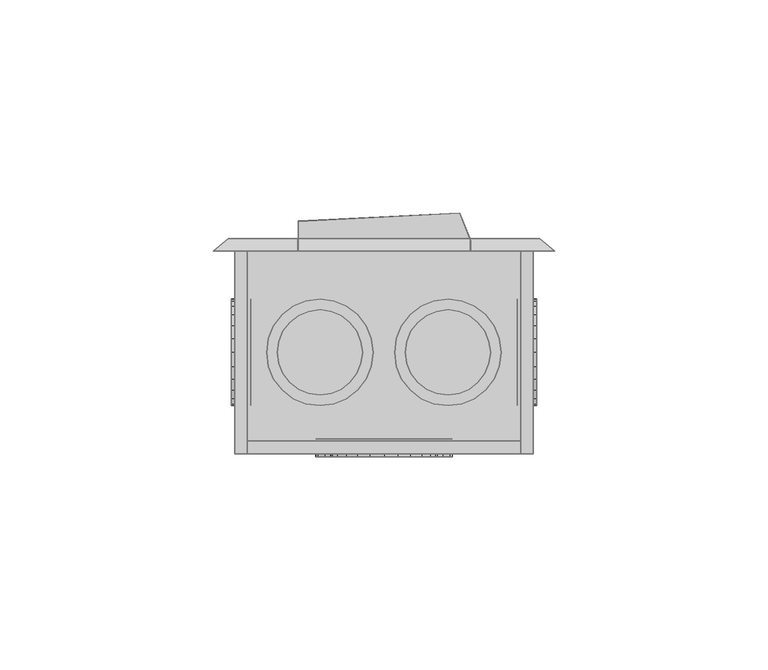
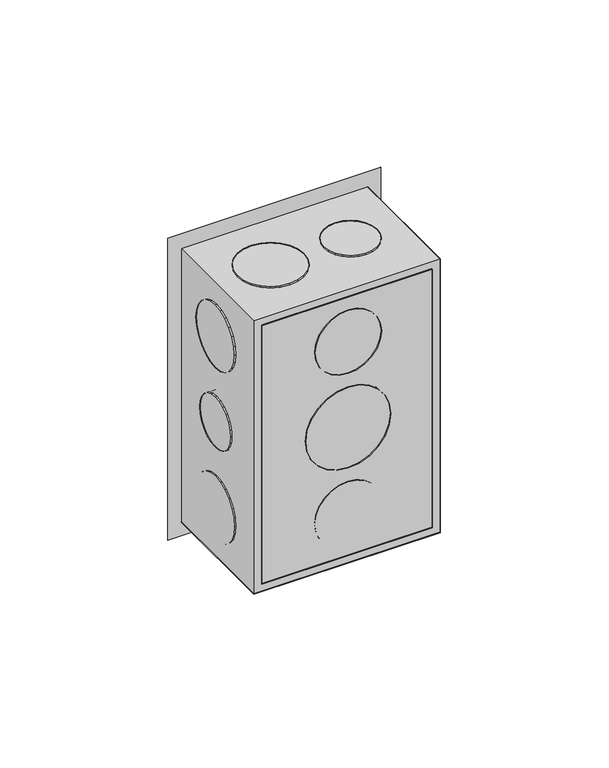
"""IFC4 building model written with IfcOpenShell, lengths in millimetres: proxy geometry,  211015 :  211015."""

from ifc_helpers import new_model, si_unit, origin, place, context, project, spatial, triangles, source, transform, mapped, element, save


def generic_models_8e6bc599(model_context):
    return source(origin(), model_context, "Body", "Tessellation", [
        triangles([(5316.1202774, 13245.499649, 1254.3000378), (5319.1200943, 13245.499649, 1148.7000154), (5316.1202774, 13245.499649, 1145.6999805), (5319.1200943, 13245.499649, 1251.2999302), (5386.1200745, 13245.499649, 1254.3000378), (5383.1202576, 13245.499649, 1251.2999302), (5386.1200745, 13245.499649, 1145.6999805), (5383.1202576, 13245.499649, 1148.7000154), (5319.1200943, 13198.0002228, 1251.2999302), (5319.1200943, 13198.0002228, 1148.7000154), (5386.1200745, 13198.0002228, 1254.3000378), (5386.1200745, 13198.0002228, 1145.6999805), (5383.1202576, 13198.0002228, 1251.2999302), (5316.1202774, 13198.0002228, 1145.6999805), (5383.1202576, 13198.0002228, 1148.7000154), (5316.1202774, 13198.0002228, 1254.3000378), (5319.1200943, 13201.0000397, 1251.2999302), (5383.1202576, 13201.0000397, 1148.7000154), (5319.1200943, 13201.0000397, 1148.7000154), (5383.1202576, 13201.0000397, 1251.2999302), (5337.2201523, 13201.5000092, 1191.9999887), (5343.1197922, 13201.5000092, 1186.0999855), (5339.8199936, 13201.5000092, 1188.6999722), (5335.6202499, 13201.5000092, 1195.8999687), (5346.9201416, 13201.5000092, 1184.5000105), (5335.1202805, 13201.5000092, 1200.0000092), (5351.1198853, 13201.5000092, 1183.9999683), (5335.6202499, 13201.5000092, 1204.0999769), (5355.2202164, 13201.5000092, 1184.5000105), (5337.2201523, 13201.5000092, 1208.0000296), (5359.1199783, 13201.5000092, 1186.0999855), (5339.8199936, 13201.5000092, 1211.2999735), (5362.4197769, 13201.5000092, 1188.6999722), (5343.1197922, 13201.5000092, 1213.9000328), (5364.9202057, 13201.5000092, 1191.9999887), (5346.9201416, 13201.5000092, 1215.5000078), (5366.520108, 13201.5000092, 1195.8999687), (5351.1198853, 13201.5000092, 1215.9999773), (5367.1200714, 13201.5000092, 1200.0000092), (5355.2202164, 13201.5000092, 1215.5000078), (5366.520108, 13201.5000092, 1204.0999769), (5359.1199783, 13201.5000092, 1213.9000328), (5364.9202057, 13201.5000092, 1208.0000296), (5362.4197769, 13201.5000092, 1211.2999735), (5355.2202164, 13197.3002655, 1184.5000105), (5351.1198853, 13197.3002655, 1183.9999683), (5346.9201416, 13197.3002655, 1184.5000105), (5343.1197922, 13197.3002655, 1186.0999855), (5339.8199936, 13197.3002655, 1188.6999722), (5337.2201523, 13197.3002655, 1191.9999887), (5335.6202499, 13197.3002655, 1195.8999687), (5335.1202805, 13197.3002655, 1200.0000092), (5335.6202499, 13197.3002655, 1204.0999769), (5337.2201523, 13197.3002655, 1208.0000296), (5339.8199936, 13197.3002655, 1211.2999735), (5343.1197922, 13197.3002655, 1213.9000328), (5346.9201416, 13197.3002655, 1215.5000078), (5351.1198853, 13197.3002655, 1215.9999773), (5355.2202164, 13197.3002655, 1215.5000078), (5359.1199783, 13197.3002655, 1213.9000328), (5362.4197769, 13197.3002655, 1211.2999735), (5364.9202057, 13197.3002655, 1208.0000296), (5366.520108, 13197.3002655, 1204.0999769), (5367.1200714, 13197.3002655, 1200.0000092), (5366.520108, 13197.3002655, 1195.8999687), (5364.9202057, 13197.3002655, 1191.9999887), (5362.4197769, 13197.3002655, 1188.6999722), (5359.1199783, 13197.3002655, 1186.0999855), (5340.2199692, 13201.5000092, 1227.8000565), (5344.8202698, 13201.5000092, 1223.2000465), (5342.2198471, 13201.5000092, 1225.2000698), (5339.0200424, 13201.5000092, 1230.8000187), (5347.8200867, 13201.5000092, 1221.8999805), (5338.6200668, 13201.5000092, 1233.9999687), (5351.1198853, 13201.5000092, 1221.500005), (5339.0200424, 13201.5000092, 1237.2000641), (5354.3202713, 13201.5000092, 1221.8999805), (5340.2199692, 13201.5000092, 1240.3000202), (5357.3200882, 13201.5000092, 1223.2000465), (5342.2198471, 13201.5000092, 1242.800013), (5359.9199295, 13201.5000092, 1225.2000698), (5361.9198074, 13201.5000092, 1227.8000565), (5344.8202698, 13201.5000092, 1244.8000362), (5347.8200867, 13201.5000092, 1246.0999569), (5363.1197342, 13201.5000092, 1230.8000187), (5351.1198853, 13201.5000092, 1246.4999325), (5363.620285, 13201.5000092, 1233.9999687), (5354.3202713, 13201.5000092, 1246.0999569), (5363.1197342, 13201.5000092, 1237.2000641), (5361.9198074, 13201.5000092, 1240.3000202), (5357.3200882, 13201.5000092, 1244.8000362), (5359.9199295, 13201.5000092, 1242.800013), (5363.1197342, 13197.3002655, 1230.8000187), (5361.9198074, 13197.3002655, 1227.8000565), (5359.9199295, 13197.3002655, 1225.2000698), (5357.3200882, 13197.3002655, 1223.2000465), (5354.3202713, 13197.3002655, 1221.8999805), (5351.1198853, 13197.3002655, 1221.500005), (5347.8200867, 13197.3002655, 1221.8999805), (5344.8202698, 13197.3002655, 1223.2000465), (5342.2198471, 13197.3002655, 1225.2000698), (5340.2199692, 13197.3002655, 1227.8000565), (5339.0200424, 13197.3002655, 1230.8000187), (5338.6200668, 13197.3002655, 1233.9999687), (5339.0200424, 13197.3002655, 1237.2000641), (5340.2199692, 13197.3002655, 1240.3000202), (5342.2198471, 13197.3002655, 1242.800013), (5344.8202698, 13197.3002655, 1244.8000362), (5347.8200867, 13197.3002655, 1246.0999569), (5351.1198853, 13197.3002655, 1246.4999325), (5354.3202713, 13197.3002655, 1246.0999569), (5357.3200882, 13197.3002655, 1244.8000362), (5359.9199295, 13197.3002655, 1242.800013), (5361.9198074, 13197.3002655, 1240.3000202), (5363.1197342, 13197.3002655, 1237.2000641), (5363.620285, 13197.3002655, 1233.9999687), (5344.8202698, 13197.3002655, 1155.1999821), (5340.2199692, 13197.3002655, 1159.6999981), (5342.2198471, 13197.3002655, 1157.2000053), (5347.8200867, 13197.3002655, 1153.8999887), (5339.0200424, 13197.3002655, 1162.8000269), (5351.1198853, 13197.3002655, 1153.5000132), (5338.6200668, 13197.3002655, 1165.9999769), (5354.3202713, 13197.3002655, 1153.8999887), (5339.0200424, 13197.3002655, 1169.1999996), (5357.3200882, 13197.3002655, 1155.1999821), (5340.2199692, 13197.3002655, 1172.2000345), (5359.9199295, 13197.3002655, 1157.2000053), (5342.2198471, 13197.3002655, 1174.8000212), (5361.9198074, 13197.3002655, 1159.6999981), (5344.8202698, 13197.3002655, 1176.7999718), (5363.1197342, 13197.3002655, 1162.8000269), (5347.8200867, 13197.3002655, 1178.0999651), (5351.1198853, 13197.3002655, 1178.5000134), (5363.620285, 13197.3002655, 1165.9999769), (5363.1197342, 13197.3002655, 1169.1999996), (5354.3202713, 13197.3002655, 1178.0999651), (5361.9198074, 13197.3002655, 1172.2000345), (5357.3200882, 13197.3002655, 1176.7999718), (5359.9199295, 13197.3002655, 1174.8000212), (5347.8200867, 13201.5000092, 1178.0999651), (5351.1198853, 13201.5000092, 1178.5000134), (5344.8202698, 13201.5000092, 1176.7999718), (5342.2198471, 13201.5000092, 1174.8000212), (5340.2199692, 13201.5000092, 1172.2000345), (5339.0200424, 13201.5000092, 1169.1999996), (5338.6200668, 13201.5000092, 1165.9999769), (5339.0200424, 13201.5000092, 1162.8000269), (5340.2199692, 13201.5000092, 1159.6999981), (5342.2198471, 13201.5000092, 1157.2000053), (5344.8202698, 13201.5000092, 1155.1999821), (5347.8200867, 13201.5000092, 1153.8999887), (5351.1198853, 13201.5000092, 1153.5000132), (5354.3202713, 13201.5000092, 1153.8999887), (5357.3200882, 13201.5000092, 1155.1999821), (5359.9199295, 13201.5000092, 1157.2000053), (5361.9198074, 13201.5000092, 1159.6999981), (5363.1197342, 13201.5000092, 1162.8000269), (5363.620285, 13201.5000092, 1165.9999769), (5363.1197342, 13201.5000092, 1169.1999996), (5361.9198074, 13201.5000092, 1172.2000345), (5359.9199295, 13201.5000092, 1174.8000212), (5357.3200882, 13201.5000092, 1176.7999718), (5354.3202713, 13201.5000092, 1178.0999651), (5319.9200455, 13216.800238, 1191.3000315), (5319.9200455, 13213.1004639, 1195.0000237), (5319.9200455, 13214.7003662, 1192.9000065), (5319.9200455, 13212.1005249, 1197.4000225), (5319.9200455, 13219.2000916, 1190.3000198), (5319.9200455, 13211.8005432, 1200.0000092), (5319.9200455, 13221.7999329, 1189.9999655), (5319.9200455, 13224.2997803, 1190.3000198), (5319.9200455, 13212.1005249, 1202.5999958), (5319.9200455, 13213.1004639, 1204.9999947), (5319.9200455, 13226.7996277, 1191.3000315), (5319.9200455, 13214.7003662, 1207.1000118), (5319.9200455, 13228.7995056, 1192.9000065), (5319.9200455, 13230.4005707, 1195.0000237), (5319.9200455, 13216.800238, 1208.6999868), (5319.9200455, 13231.4005096, 1197.4000225), (5319.9200455, 13219.2000916, 1209.6999985), (5319.9200455, 13231.8004852, 1200.0000092), (5319.9200455, 13221.7999329, 1209.9999802), (5319.9200455, 13231.4005096, 1202.5999958), (5319.9200455, 13224.2997803, 1209.6999985), (5319.9200455, 13226.7996277, 1208.6999868), (5319.9200455, 13230.4005707, 1204.9999947), (5319.9200455, 13228.7995056, 1207.1000118), (5315.3197449, 13221.7999329, 1189.9999655), (5315.3197449, 13219.2000916, 1190.3000198), (5315.3197449, 13224.2997803, 1190.3000198), (5315.3197449, 13226.7996277, 1191.3000315), (5315.3197449, 13228.7995056, 1192.9000065), (5315.3197449, 13230.4005707, 1195.0000237), (5315.3197449, 13231.4005096, 1197.4000225), (5315.3197449, 13231.8004852, 1200.0000092), (5315.3197449, 13231.4005096, 1202.5999958), (5315.3197449, 13230.4005707, 1204.9999947), (5315.3197449, 13228.7995056, 1207.1000118), (5315.3197449, 13226.7996277, 1208.6999868), (5315.3197449, 13224.2997803, 1209.6999985), (5315.3197449, 13221.7999329, 1209.9999802), (5315.3197449, 13219.2000916, 1209.6999985), (5315.3197449, 13216.800238, 1208.6999868), (5315.3197449, 13214.7003662, 1207.1000118), (5315.3197449, 13213.1004639, 1204.9999947), (5315.3197449, 13212.1005249, 1202.5999958), (5315.3197449, 13211.8005432, 1200.0000092), (5315.3197449, 13212.1005249, 1197.4000225), (5315.3197449, 13213.1004639, 1195.0000237), (5315.3197449, 13214.7003662, 1192.9000065), (5315.3197449, 13216.800238, 1191.3000315), (5319.9200455, 13215.5003174, 1223.2000465), (5319.9200455, 13210.8994354, 1227.8000565), (5319.9200455, 13212.9004761, 1225.2000698), (5319.9200455, 13218.5001343, 1221.8999805), (5319.9200455, 13209.6995087, 1230.8000187), (5319.9200455, 13209.2995331, 1233.9999687), (5319.9200455, 13221.7999329, 1221.500005), (5319.9200455, 13224.9997375, 1221.8999805), (5319.9200455, 13209.6995087, 1237.2000641), (5319.9200455, 13210.8994354, 1240.3000202), (5319.9200455, 13227.9995544, 1223.2000465), (5319.9200455, 13230.6005585, 1225.2000698), (5319.9200455, 13212.9004761, 1242.800013), (5319.9200455, 13232.6004364, 1227.8000565), (5319.9200455, 13215.5003174, 1244.8000362), (5319.9200455, 13233.8003632, 1230.8000187), (5319.9200455, 13218.5001343, 1246.0999569), (5319.9200455, 13234.3003326, 1233.9999687), (5319.9200455, 13221.7999329, 1246.4999325), (5319.9200455, 13233.8003632, 1237.2000641), (5319.9200455, 13224.9997375, 1246.0999569), (5319.9200455, 13232.6004364, 1240.3000202), (5319.9200455, 13227.9995544, 1244.8000362), (5319.9200455, 13230.6005585, 1242.800013), (5315.3197449, 13221.7999329, 1221.500005), (5315.3197449, 13218.5001343, 1221.8999805), (5315.3197449, 13224.9997375, 1221.8999805), (5315.3197449, 13227.9995544, 1223.2000465), (5315.3197449, 13230.6005585, 1225.2000698), (5315.3197449, 13232.6004364, 1227.8000565), (5315.3197449, 13233.8003632, 1230.8000187), (5315.3197449, 13234.3003326, 1233.9999687), (5315.3197449, 13233.8003632, 1237.2000641), (5315.3197449, 13232.6004364, 1240.3000202), (5315.3197449, 13230.6005585, 1242.800013), (5315.3197449, 13227.9995544, 1244.8000362), (5315.3197449, 13224.9997375, 1246.0999569), (5315.3197449, 13221.7999329, 1246.4999325), (5315.3197449, 13218.5001343, 1246.0999569), (5315.3197449, 13215.5003174, 1244.8000362), (5315.3197449, 13212.9004761, 1242.800013), (5315.3197449, 13210.8994354, 1240.3000202), (5315.3197449, 13209.6995087, 1237.2000641), (5315.3197449, 13209.2995331, 1233.9999687), (5315.3197449, 13209.6995087, 1230.8000187), (5315.3197449, 13210.8994354, 1227.8000565), (5315.3197449, 13212.9004761, 1225.2000698), (5315.3197449, 13215.5003174, 1223.2000465), (5315.3197449, 13210.8994354, 1159.6999981), (5315.3197449, 13215.5003174, 1155.1999821), (5315.3197449, 13212.9004761, 1157.2000053), (5315.3197449, 13209.6995087, 1162.8000269), (5315.3197449, 13218.5001343, 1153.8999887), (5315.3197449, 13209.2995331, 1165.9999769), (5315.3197449, 13221.7999329, 1153.5000132), (5315.3197449, 13209.6995087, 1169.1999996), (5315.3197449, 13224.9997375, 1153.8999887), (5315.3197449, 13210.8994354, 1172.2000345), (5315.3197449, 13227.9995544, 1155.1999821), (5315.3197449, 13212.9004761, 1174.8000212), (5315.3197449, 13230.6005585, 1157.2000053), (5315.3197449, 13215.5003174, 1176.7999718), (5315.3197449, 13232.6004364, 1159.6999981), (5315.3197449, 13218.5001343, 1178.0999651), (5315.3197449, 13233.8003632, 1162.8000269), (5315.3197449, 13221.7999329, 1178.5000134), (5315.3197449, 13234.3003326, 1165.9999769), (5315.3197449, 13224.9997375, 1178.0999651), (5315.3197449, 13233.8003632, 1169.1999996), (5315.3197449, 13227.9995544, 1176.7999718), (5315.3197449, 13232.6004364, 1172.2000345), (5315.3197449, 13230.6005585, 1174.8000212), (5319.9200455, 13218.5001343, 1178.0999651), (5319.9200455, 13221.7999329, 1178.5000134), (5319.9200455, 13224.9997375, 1178.0999651), (5319.9200455, 13227.9995544, 1176.7999718), (5319.9200455, 13230.6005585, 1174.8000212), (5319.9200455, 13232.6004364, 1172.2000345), (5319.9200455, 13233.8003632, 1169.1999996), (5319.9200455, 13234.3003326, 1165.9999769), (5319.9200455, 13233.8003632, 1162.8000269), (5319.9200455, 13232.6004364, 1159.6999981), (5319.9200455, 13230.6005585, 1157.2000053), (5319.9200455, 13227.9995544, 1155.1999821), (5319.9200455, 13224.9997375, 1153.8999887), (5319.9200455, 13221.7999329, 1153.5000132), (5319.9200455, 13218.5001343, 1153.8999887), (5319.9200455, 13215.5003174, 1155.1999821), (5319.9200455, 13212.9004761, 1157.2000053), (5319.9200455, 13210.8994354, 1159.6999981), (5319.9200455, 13209.6995087, 1162.8000269), (5319.9200455, 13209.2995331, 1165.9999769), (5319.9200455, 13209.6995087, 1169.1999996), (5319.9200455, 13210.8994354, 1172.2000345), (5319.9200455, 13212.9004761, 1174.8000212), (5319.9200455, 13215.5003174, 1176.7999718), (5382.319725, 13213.1004639, 1195.0000237), (5382.319725, 13216.800238, 1191.3000315), (5382.319725, 13214.7003662, 1192.9000065), (5382.319725, 13212.1005249, 1197.4000225), (5382.319725, 13219.2000916, 1190.3000198), (5382.319725, 13211.8005432, 1200.0000092), (5382.319725, 13221.7999329, 1189.9999655), (5382.319725, 13212.1005249, 1202.5999958), (5382.319725, 13224.2997803, 1190.3000198), (5382.319725, 13213.1004639, 1204.9999947), (5382.319725, 13226.7996277, 1191.3000315), (5382.319725, 13214.7003662, 1207.1000118), (5382.319725, 13228.7995056, 1192.9000065), (5382.319725, 13216.800238, 1208.6999868), (5382.319725, 13230.4005707, 1195.0000237), (5382.319725, 13219.2000916, 1209.6999985), (5382.319725, 13231.4005096, 1197.4000225), (5382.319725, 13231.8004852, 1200.0000092), (5382.319725, 13221.7999329, 1209.9999802), (5382.319725, 13224.2997803, 1209.6999985), (5382.319725, 13231.4005096, 1202.5999958), (5382.319725, 13226.7996277, 1208.6999868), (5382.319725, 13230.4005707, 1204.9999947), (5382.319725, 13228.7995056, 1207.1000118), (5386.9200256, 13219.2000916, 1209.6999985), (5386.9200256, 13221.7999329, 1209.9999802), (5386.9200256, 13224.2997803, 1209.6999985), (5386.9200256, 13226.7996277, 1208.6999868), (5386.9200256, 13228.7995056, 1207.1000118), (5386.9200256, 13230.4005707, 1204.9999947), (5386.9200256, 13231.4005096, 1202.5999958), (5386.9200256, 13231.8004852, 1200.0000092), (5386.9200256, 13231.4005096, 1197.4000225), (5386.9200256, 13230.4005707, 1195.0000237), (5386.9200256, 13228.7995056, 1192.9000065), (5386.9200256, 13226.7996277, 1191.3000315), (5386.9200256, 13224.2997803, 1190.3000198), (5386.9200256, 13221.7999329, 1189.9999655), (5386.9200256, 13219.2000916, 1190.3000198), (5386.9200256, 13216.800238, 1191.3000315), (5386.9200256, 13214.7003662, 1192.9000065), (5386.9200256, 13213.1004639, 1195.0000237), (5386.9200256, 13212.1005249, 1197.4000225), (5386.9200256, 13211.8005432, 1200.0000092), (5386.9200256, 13212.1005249, 1202.5999958), (5386.9200256, 13213.1004639, 1204.9999947), (5386.9200256, 13214.7003662, 1207.1000118), (5386.9200256, 13216.800238, 1208.6999868), (5382.319725, 13210.8994354, 1159.6999981), (5382.319725, 13215.5003174, 1155.1999821), (5382.319725, 13212.9004761, 1157.2000053), (5382.319725, 13209.6995087, 1162.8000269), (5382.319725, 13218.5001343, 1153.8999887), (5382.319725, 13209.2995331, 1165.9999769), (5382.319725, 13221.7999329, 1153.5000132), (5382.319725, 13209.6995087, 1169.1999996), (5382.319725, 13224.9997375, 1153.8999887), (5382.319725, 13210.8994354, 1172.2000345), (5382.319725, 13227.9995544, 1155.1999821), (5382.319725, 13212.9004761, 1174.8000212), (5382.319725, 13230.6005585, 1157.2000053), (5382.319725, 13215.5003174, 1176.7999718), (5382.319725, 13232.6004364, 1159.6999981), (5382.319725, 13218.5001343, 1178.0999651), (5382.319725, 13233.8003632, 1162.8000269), (5382.319725, 13221.7999329, 1178.5000134), (5382.319725, 13234.3003326, 1165.9999769), (5382.319725, 13224.9997375, 1178.0999651), (5382.319725, 13233.8003632, 1169.1999996), (5382.319725, 13227.9995544, 1176.7999718), (5382.319725, 13232.6004364, 1172.2000345), (5382.319725, 13230.6005585, 1174.8000212), (5386.9200256, 13218.5001343, 1178.0999651), (5386.9200256, 13221.7999329, 1178.5000134), (5386.9200256, 13224.9997375, 1178.0999651), (5386.9200256, 13227.9995544, 1176.7999718), (5386.9200256, 13230.6005585, 1174.8000212), (5386.9200256, 13232.6004364, 1172.2000345), (5386.9200256, 13233.8003632, 1169.1999996), (5386.9200256, 13234.3003326, 1165.9999769), (5386.9200256, 13233.8003632, 1162.8000269), (5386.9200256, 13232.6004364, 1159.6999981), (5386.9200256, 13230.6005585, 1157.2000053), (5386.9200256, 13227.9995544, 1155.1999821), (5386.9200256, 13224.9997375, 1153.8999887), (5386.9200256, 13221.7999329, 1153.5000132), (5386.9200256, 13218.5001343, 1153.8999887), (5386.9200256, 13215.5003174, 1155.1999821), (5386.9200256, 13212.9004761, 1157.2000053), (5386.9200256, 13210.8994354, 1159.6999981), (5386.9200256, 13209.6995087, 1162.8000269), (5386.9200256, 13209.2995331, 1165.9999769), (5386.9200256, 13209.6995087, 1169.1999996), (5386.9200256, 13210.8994354, 1172.2000345), (5386.9200256, 13212.9004761, 1174.8000212), (5386.9200256, 13215.5003174, 1176.7999718), (5386.9200256, 13215.5003174, 1223.2000465), (5386.9200256, 13210.8994354, 1227.8000565), (5386.9200256, 13212.9004761, 1225.2000698), (5386.9200256, 13218.5001343, 1221.8999805), (5386.9200256, 13209.6995087, 1230.8000187), (5386.9200256, 13209.2995331, 1233.9999687), (5386.9200256, 13221.7999329, 1221.500005), (5386.9200256, 13224.9997375, 1221.8999805), (5386.9200256, 13209.6995087, 1237.2000641), (5386.9200256, 13210.8994354, 1240.3000202), (5386.9200256, 13227.9995544, 1223.2000465), (5386.9200256, 13230.6005585, 1225.2000698), (5386.9200256, 13212.9004761, 1242.800013), (5386.9200256, 13232.6004364, 1227.8000565), (5386.9200256, 13215.5003174, 1244.8000362), (5386.9200256, 13233.8003632, 1230.8000187), (5386.9200256, 13218.5001343, 1246.0999569), (5386.9200256, 13234.3003326, 1233.9999687), (5386.9200256, 13221.7999329, 1246.4999325), (5386.9200256, 13233.8003632, 1237.2000641), (5386.9200256, 13224.9997375, 1246.0999569), (5386.9200256, 13232.6004364, 1240.3000202), (5386.9200256, 13227.9995544, 1244.8000362), (5386.9200256, 13230.6005585, 1242.800013), (5382.319725, 13221.7999329, 1221.500005), (5382.319725, 13218.5001343, 1221.8999805), (5382.319725, 13224.9997375, 1221.8999805), (5382.319725, 13227.9995544, 1223.2000465), (5382.319725, 13230.6005585, 1225.2000698), (5382.319725, 13232.6004364, 1227.8000565), (5382.319725, 13233.8003632, 1230.8000187), (5382.319725, 13234.3003326, 1233.9999687), (5382.319725, 13233.8003632, 1237.2000641), (5382.319725, 13232.6004364, 1240.3000202), (5382.319725, 13230.6005585, 1242.800013), (5382.319725, 13227.9995544, 1244.8000362), (5382.319725, 13224.9997375, 1246.0999569), (5382.319725, 13221.7999329, 1246.4999325), (5382.319725, 13218.5001343, 1246.0999569), (5382.319725, 13215.5003174, 1244.8000362), (5382.319725, 13212.9004761, 1242.800013), (5382.319725, 13210.8994354, 1240.3000202), (5382.319725, 13209.6995087, 1237.2000641), (5382.319725, 13209.2995331, 1233.9999687), (5382.319725, 13209.6995087, 1230.8000187), (5382.319725, 13210.8994354, 1227.8000565), (5382.319725, 13212.9004761, 1225.2000698), (5382.319725, 13215.5003174, 1223.2000465), (5325.219722, 13215.5003174, 1250.9999485), (5329.8200226, 13210.8994354, 1250.9999485), (5327.2201813, 13212.9004761, 1250.9999485), (5324.0197952, 13218.5001343, 1250.9999485), (5332.8198395, 13209.6995087, 1250.9999485), (5336.1202194, 13209.2995331, 1250.9999485), (5323.6198196, 13221.7999329, 1250.9999485), (5324.0197952, 13224.9997375, 1250.9999485), (5339.3200241, 13209.6995087, 1250.9999485), (5342.319841, 13210.8994354, 1250.9999485), (5325.219722, 13227.9995544, 1250.9999485), (5327.2201813, 13230.6005585, 1250.9999485), (5344.9202637, 13212.9004761, 1250.9999485), (5346.9201416, 13215.5003174, 1250.9999485), (5329.8200226, 13232.6004364, 1250.9999485), (5332.8198395, 13233.8003632, 1250.9999485), (5348.1200684, 13218.5001343, 1250.9999485), (5336.1202194, 13234.3003326, 1250.9999485), (5348.6200378, 13221.7999329, 1250.9999485), (5339.3200241, 13233.8003632, 1250.9999485), (5348.1200684, 13224.9997375, 1250.9999485), (5346.9201416, 13227.9995544, 1250.9999485), (5342.319841, 13232.6004364, 1250.9999485), (5344.9202637, 13230.6005585, 1250.9999485), (5336.1202194, 13209.2995331, 1255.1999828), (5339.3200241, 13209.6995087, 1255.1999828), (5332.8198395, 13209.6995087, 1255.1999828), (5329.8200226, 13210.8994354, 1255.1999828), (5327.2201813, 13212.9004761, 1255.1999828), (5325.219722, 13215.5003174, 1255.1999828), (5324.0197952, 13218.5001343, 1255.1999828), (5323.6198196, 13221.7999329, 1255.1999828), (5324.0197952, 13224.9997375, 1255.1999828), (5325.219722, 13227.9995544, 1255.1999828), (5327.2201813, 13230.6005585, 1255.1999828), (5329.8200226, 13232.6004364, 1255.1999828), (5332.8198395, 13233.8003632, 1255.1999828), (5336.1202194, 13234.3003326, 1255.1999828), (5339.3200241, 13233.8003632, 1255.1999828), (5342.319841, 13232.6004364, 1255.1999828), (5344.9202637, 13230.6005585, 1255.1999828), (5346.9201416, 13227.9995544, 1255.1999828), (5348.1200684, 13224.9997375, 1255.1999828), (5348.6200378, 13221.7999329, 1255.1999828), (5348.1200684, 13218.5001343, 1255.1999828), (5346.9201416, 13215.5003174, 1255.1999828), (5344.9202637, 13212.9004761, 1255.1999828), (5342.319841, 13210.8994354, 1255.1999828), (5357.4200821, 13216.800238, 1250.9999485), (5361.1198563, 13213.1004639, 1250.9999485), (5359.0199844, 13214.7003662, 1250.9999485), (5363.5197098, 13212.1005249, 1250.9999485), (5356.4201431, 13219.2000916, 1250.9999485), (5366.1201324, 13211.8005432, 1250.9999485), (5356.1201614, 13221.7999329, 1250.9999485), (5356.4201431, 13224.2997803, 1250.9999485), (5368.7199738, 13212.1005249, 1250.9999485), (5371.1198273, 13213.1004639, 1250.9999485), (5357.4200821, 13226.7996277, 1250.9999485), (5373.1202866, 13214.7003662, 1250.9999485), (5359.0199844, 13228.7995056, 1250.9999485), (5361.1198563, 13230.4005707, 1250.9999485), (5374.7201889, 13216.800238, 1250.9999485), (5375.7201279, 13219.2000916, 1250.9999485), (5363.5197098, 13231.4005096, 1250.9999485), (5366.1201324, 13231.8004852, 1250.9999485), (5376.1201035, 13221.7999329, 1250.9999485), (5368.7199738, 13231.4005096, 1250.9999485), (5375.7201279, 13224.2997803, 1250.9999485), (5371.1198273, 13230.4005707, 1250.9999485), (5374.7201889, 13226.7996277, 1250.9999485), (5373.1202866, 13228.7995056, 1250.9999485), (5368.7199738, 13212.1005249, 1255.1999828), (5371.1198273, 13213.1004639, 1255.1999828), (5366.1201324, 13211.8005432, 1255.1999828), (5363.5197098, 13212.1005249, 1255.1999828), (5361.1198563, 13213.1004639, 1255.1999828), (5359.0199844, 13214.7003662, 1255.1999828), (5357.4200821, 13216.800238, 1255.1999828), (5356.4201431, 13219.2000916, 1255.1999828), (5356.1201614, 13221.7999329, 1255.1999828), (5356.4201431, 13224.2997803, 1255.1999828), (5357.4200821, 13226.7996277, 1255.1999828), (5359.0199844, 13228.7995056, 1255.1999828), (5361.1198563, 13230.4005707, 1255.1999828), (5363.5197098, 13231.4005096, 1255.1999828), (5366.1201324, 13231.8004852, 1255.1999828), (5368.7199738, 13231.4005096, 1255.1999828), (5371.1198273, 13230.4005707, 1255.1999828), (5373.1202866, 13228.7995056, 1255.1999828), (5374.7201889, 13226.7996277, 1255.1999828), (5375.7201279, 13224.2997803, 1255.1999828), (5376.1201035, 13221.7999329, 1255.1999828), (5375.7201279, 13219.2000916, 1255.1999828), (5374.7201889, 13216.800238, 1255.1999828), (5373.1202866, 13214.7003662, 1255.1999828), (5327.4201691, 13216.800238, 1144.8000355), (5331.1199432, 13213.1004639, 1144.8000355), (5329.0200714, 13214.7003662, 1144.8000355), (5333.5197968, 13212.1005249, 1144.8000355), (5326.4202301, 13219.2000916, 1144.8000355), (5336.1202194, 13211.8005432, 1144.8000355), (5326.1202484, 13221.7999329, 1144.8000355), (5326.4202301, 13224.2997803, 1144.8000355), (5338.7200607, 13212.1005249, 1144.8000355), (5341.1199142, 13213.1004639, 1144.8000355), (5327.4201691, 13226.7996277, 1144.8000355), (5343.1197922, 13214.7003662, 1144.8000355), (5329.0200714, 13228.7995056, 1144.8000355), (5331.1199432, 13230.4005707, 1144.8000355), (5344.7202759, 13216.800238, 1144.8000355), (5345.7202148, 13219.2000916, 1144.8000355), (5333.5197968, 13231.4005096, 1144.8000355), (5336.1202194, 13231.8004852, 1144.8000355), (5346.1201904, 13221.7999329, 1144.8000355), (5338.7200607, 13231.4005096, 1144.8000355), (5345.7202148, 13224.2997803, 1144.8000355), (5341.1199142, 13230.4005707, 1144.8000355), (5344.7202759, 13226.7996277, 1144.8000355), (5343.1197922, 13228.7995056, 1144.8000355), (5333.5197968, 13212.1005249, 1149.099991), (5336.1202194, 13211.8005432, 1149.099991), (5331.1199432, 13213.1004639, 1149.099991), (5329.0200714, 13214.7003662, 1149.099991), (5327.4201691, 13216.800238, 1149.099991), (5326.4202301, 13219.2000916, 1149.099991), (5326.1202484, 13221.7999329, 1149.099991), (5326.4202301, 13224.2997803, 1149.099991), (5327.4201691, 13226.7996277, 1149.099991), (5329.0200714, 13228.7995056, 1149.099991), (5331.1199432, 13230.4005707, 1149.099991), (5333.5197968, 13231.4005096, 1149.099991), (5336.1202194, 13231.8004852, 1149.099991), (5338.7200607, 13231.4005096, 1149.099991), (5341.1199142, 13230.4005707, 1149.099991), (5343.1197922, 13228.7995056, 1149.099991), (5344.7202759, 13226.7996277, 1149.099991), (5345.7202148, 13224.2997803, 1149.099991), (5346.1201904, 13221.7999329, 1149.099991), (5345.7202148, 13219.2000916, 1149.099991), (5344.7202759, 13216.800238, 1149.099991), (5343.1197922, 13214.7003662, 1149.099991), (5341.1199142, 13213.1004639, 1149.099991), (5338.7200607, 13212.1005249, 1149.099991), (5355.2202164, 13215.5003174, 1144.8000355), (5359.8199356, 13210.8994354, 1144.8000355), (5357.2200943, 13212.9004761, 1144.8000355), (5354.0202896, 13218.5001343, 1144.8000355), (5362.8197525, 13209.6995087, 1144.8000355), (5366.1201324, 13209.2995331, 1144.8000355), (5353.6197327, 13221.7999329, 1144.8000355), (5354.0202896, 13224.9997375, 1144.8000355), (5369.3199371, 13209.6995087, 1144.8000355), (5372.319754, 13210.8994354, 1144.8000355), (5355.2202164, 13227.9995544, 1144.8000355), (5357.2200943, 13230.6005585, 1144.8000355), (5374.9201767, 13212.9004761, 1144.8000355), (5376.9200546, 13215.5003174, 1144.8000355), (5359.8199356, 13232.6004364, 1144.8000355), (5362.8197525, 13233.8003632, 1144.8000355), (5378.1199814, 13218.5001343, 1144.8000355), (5366.1201324, 13234.3003326, 1144.8000355), (5378.6199509, 13221.7999329, 1144.8000355), (5369.3199371, 13233.8003632, 1144.8000355), (5378.1199814, 13224.9997375, 1144.8000355), (5376.9200546, 13227.9995544, 1144.8000355), (5372.319754, 13232.6004364, 1144.8000355), (5374.9201767, 13230.6005585, 1144.8000355), (5369.3199371, 13209.6995087, 1149.099991), (5372.319754, 13210.8994354, 1149.099991), (5366.1201324, 13209.2995331, 1149.099991), (5362.8197525, 13209.6995087, 1149.099991), (5359.8199356, 13210.8994354, 1149.099991), (5357.2200943, 13212.9004761, 1149.099991), (5355.2202164, 13215.5003174, 1149.099991), (5354.0202896, 13218.5001343, 1149.099991), (5353.6197327, 13221.7999329, 1149.099991), (5354.0202896, 13224.9997375, 1149.099991), (5355.2202164, 13227.9995544, 1149.099991), (5357.2200943, 13230.6005585, 1149.099991), (5359.8199356, 13232.6004364, 1149.099991), (5362.8197525, 13233.8003632, 1149.099991), (5366.1201324, 13234.3003326, 1149.099991), (5369.3199371, 13233.8003632, 1149.099991), (5372.319754, 13232.6004364, 1149.099991), (5374.9201767, 13230.6005585, 1149.099991), (5376.9200546, 13227.9995544, 1149.099991), (5378.1199814, 13224.9997375, 1149.099991), (5378.6199509, 13221.7999329, 1149.099991), (5378.1199814, 13218.5001343, 1149.099991), (5376.9200546, 13215.5003174, 1149.099991), (5374.9201767, 13212.9004761, 1149.099991), (5391.1197693, 13245.499649, 1139.9999651), (5330.9199554, 13245.499649, 1188.2999966), (5311.1200012, 13245.499649, 1139.9999651), (5371.3198151, 13245.499649, 1188.2999966), (5391.1197693, 13245.499649, 1259.9999805), (5371.3198151, 13245.499649, 1211.7000217), (5311.1200012, 13245.499649, 1259.9999805), (5330.9199554, 13245.499649, 1211.7000217), (5371.3198151, 13248.4994659, 1188.2999966), (5371.3198151, 13248.4994659, 1211.7000217), (5330.9199554, 13248.4994659, 1188.2999966), (5330.9199554, 13248.4994659, 1211.7000217), (5314.6197876, 13248.4994659, 1143.4999695), (5314.6197876, 13248.4994659, 1256.5000488), (5387.6199829, 13248.4994659, 1143.4999695), (5387.6199829, 13248.4994659, 1256.5000488), (5331.0199493, 13252.5003845, 1188.1000088), (5371.419809, 13245.499649, 1188.1000088), (5331.0199493, 13245.499649, 1188.1000088), (5368.8199677, 13254.4002686, 1188.1000088), (5371.419809, 13247.9994965, 1188.1000088), (5331.0199493, 13245.499649, 1211.500034), (5371.419809, 13245.499649, 1211.500034), (5331.0199493, 13252.5003845, 1211.500034), (5368.8199677, 13254.4002686, 1211.500034), (5371.419809, 13247.9994965, 1211.500034)], [[1, 2, 3], [2, 1, 4], [5, 4, 1], [4, 5, 6], [3, 2, 7], [7, 2, 8], [7, 8, 6], [7, 6, 5], [2, 9, 10], [9, 2, 4], [7, 11, 12], [11, 7, 5], [4, 13, 9], [13, 4, 6], [3, 12, 14], [12, 3, 7], [13, 8, 15], [8, 13, 6], [16, 3, 14], [3, 16, 1], [15, 2, 10], [2, 15, 8], [11, 1, 16], [1, 11, 5], [12, 10, 14], [10, 12, 15], [11, 15, 12], [15, 11, 13], [14, 10, 16], [16, 10, 9], [16, 9, 13], [16, 13, 11], [17, 18, 19], [18, 17, 20], [18, 13, 15], [13, 18, 20], [19, 15, 10], [15, 19, 18], [9, 19, 10], [19, 9, 17], [13, 17, 9], [17, 13, 20], [15, 9, 10], [9, 15, 13], [21, 22, 23], [22, 21, 24], [25, 22, 24], [25, 24, 26], [27, 25, 26], [27, 26, 28], [29, 27, 28], [29, 28, 30], [31, 29, 30], [31, 30, 32], [31, 32, 33], [33, 32, 34], [33, 34, 35], [35, 34, 36], [35, 36, 37], [37, 36, 38], [37, 38, 39], [39, 38, 40], [39, 40, 41], [41, 40, 42], [41, 42, 43], [43, 42, 44], [27, 45, 46], [45, 27, 29], [25, 46, 47], [46, 25, 27], [22, 47, 48], [47, 22, 25], [23, 48, 49], [48, 23, 22], [50, 23, 49], [23, 50, 21], [51, 21, 50], [21, 51, 24], [52, 24, 51], [24, 52, 26], [53, 26, 52], [26, 53, 28], [54, 28, 53], [28, 54, 30], [55, 30, 54], [30, 55, 32], [56, 32, 55], [32, 56, 34], [57, 34, 56], [34, 57, 36], [58, 36, 57], [36, 58, 38], [59, 38, 58], [38, 59, 40], [60, 40, 59], [40, 60, 42], [61, 42, 60], [42, 61, 44], [43, 61, 62], [61, 43, 44], [41, 62, 63], [62, 41, 43], [39, 63, 64], [63, 39, 41], [37, 64, 65], [64, 37, 39], [35, 65, 66], [65, 35, 37], [33, 66, 67], [66, 33, 35], [31, 67, 68], [67, 31, 33], [29, 68, 45], [68, 29, 31], [48, 50, 49], [50, 48, 47], [51, 50, 47], [51, 47, 46], [52, 51, 46], [52, 46, 45], [53, 52, 45], [53, 45, 68], [54, 53, 68], [54, 68, 67], [54, 67, 55], [55, 67, 66], [55, 66, 56], [56, 66, 65], [56, 65, 57], [57, 65, 64], [57, 64, 58], [58, 64, 63], [58, 63, 59], [59, 63, 62], [59, 62, 60], [60, 62, 61], [69, 70, 71], [70, 69, 72], [73, 70, 72], [73, 72, 74], [75, 73, 74], [75, 74, 76], [77, 75, 76], [77, 76, 78], [79, 77, 78], [79, 78, 80], [81, 79, 80], [81, 80, 82], [82, 80, 83], [82, 83, 84], [82, 84, 85], [85, 84, 86], [85, 86, 87], [87, 86, 88], [87, 88, 89], [89, 88, 90], [90, 88, 91], [90, 91, 92], [82, 93, 94], [93, 82, 85], [81, 94, 95], [94, 81, 82], [79, 95, 96], [95, 79, 81], [77, 96, 97], [96, 77, 79], [75, 97, 98], [97, 75, 77], [73, 98, 99], [98, 73, 75], [70, 99, 100], [99, 70, 73], [71, 100, 101], [100, 71, 70], [102, 71, 101], [71, 102, 69], [103, 69, 102], [69, 103, 72], [104, 72, 103], [72, 104, 74], [105, 74, 104], [74, 105, 76], [106, 76, 105], [76, 106, 78], [107, 78, 106], [78, 107, 80], [108, 80, 107], [80, 108, 83], [109, 83, 108], [83, 109, 84], [110, 84, 109], [84, 110, 86], [111, 86, 110], [86, 111, 88], [112, 88, 111], [88, 112, 91], [113, 91, 112], [91, 113, 92], [90, 113, 114], [113, 90, 92], [89, 114, 115], [114, 89, 90], [87, 115, 116], [115, 87, 89], [85, 116, 93], [116, 85, 87], [100, 102, 101], [102, 100, 99], [103, 102, 99], [103, 99, 98], [104, 103, 98], [104, 98, 97], [105, 104, 97], [106, 105, 97], [106, 97, 96], [106, 96, 95], [106, 95, 107], [107, 95, 94], [107, 94, 108], [108, 94, 93], [108, 93, 109], [109, 93, 116], [109, 116, 110], [110, 116, 115], [110, 115, 111], [111, 115, 114], [111, 114, 112], [112, 114, 113], [117, 118, 119], [118, 117, 120], [121, 118, 120], [121, 120, 122], [123, 121, 122], [123, 122, 124], [125, 123, 124], [125, 124, 126], [127, 125, 126], [127, 126, 128], [127, 128, 129], [129, 128, 130], [129, 130, 131], [131, 130, 132], [131, 132, 133], [133, 132, 134], [134, 132, 135], [134, 135, 136], [134, 136, 137], [137, 136, 138], [137, 138, 139], [139, 138, 140], [134, 141, 133], [141, 134, 142], [133, 143, 131], [143, 133, 141], [131, 144, 129], [144, 131, 143], [129, 145, 127], [145, 129, 144], [127, 146, 125], [146, 127, 145], [125, 147, 123], [147, 125, 146], [123, 148, 121], [148, 123, 147], [121, 149, 118], [149, 121, 148], [118, 150, 119], [150, 118, 149], [150, 117, 119], [117, 150, 151], [151, 120, 117], [120, 151, 152], [152, 122, 120], [122, 152, 153], [153, 124, 122], [124, 153, 154], [154, 126, 124], [126, 154, 155], [155, 128, 126], [128, 155, 156], [156, 130, 128], [130, 156, 157], [157, 132, 130], [132, 157, 158], [158, 135, 132], [135, 158, 159], [159, 136, 135], [136, 159, 160], [160, 138, 136], [138, 160, 161], [161, 140, 138], [140, 161, 162], [140, 163, 139], [163, 140, 162], [139, 164, 137], [164, 139, 163], [137, 142, 134], [142, 137, 164], [149, 151, 150], [151, 149, 148], [152, 151, 148], [153, 152, 148], [153, 148, 147], [153, 147, 146], [154, 153, 146], [154, 146, 145], [155, 154, 145], [155, 145, 144], [156, 155, 144], [156, 144, 157], [157, 144, 143], [157, 143, 141], [157, 141, 158], [158, 141, 142], [158, 142, 159], [159, 142, 164], [159, 164, 160], [160, 164, 163], [160, 163, 161], [161, 163, 162], [165, 166, 167], [168, 166, 165], [168, 165, 169], [170, 168, 169], [170, 169, 171], [170, 171, 172], [173, 170, 172], [174, 173, 172], [174, 172, 175], [176, 174, 175], [176, 175, 177], [176, 177, 178], [176, 178, 179], [179, 178, 180], [179, 180, 181], [181, 180, 182], [181, 182, 183], [183, 182, 184], [183, 184, 185], [185, 184, 186], [186, 184, 187], [186, 187, 188], [189, 169, 190], [169, 189, 171], [191, 171, 189], [171, 191, 172], [192, 172, 191], [172, 192, 175], [193, 175, 192], [175, 193, 177], [194, 177, 193], [177, 194, 178], [195, 178, 194], [178, 195, 180], [196, 180, 195], [180, 196, 182], [197, 182, 196], [182, 197, 184], [198, 184, 197], [184, 198, 187], [199, 187, 198], [187, 199, 188], [186, 199, 200], [199, 186, 188], [185, 200, 201], [200, 185, 186], [183, 201, 202], [201, 183, 185], [181, 202, 203], [202, 181, 183], [179, 203, 204], [203, 179, 181], [176, 204, 205], [204, 176, 179], [174, 205, 206], [205, 174, 176], [173, 206, 207], [206, 173, 174], [170, 207, 208], [207, 170, 173], [168, 208, 209], [208, 168, 170], [166, 209, 210], [209, 166, 168], [167, 210, 211], [210, 167, 166], [212, 167, 211], [167, 212, 165], [190, 165, 212], [165, 190, 169], [210, 212, 211], [212, 210, 209], [190, 212, 209], [190, 209, 208], [189, 190, 208], [189, 208, 207], [191, 189, 207], [191, 207, 206], [192, 191, 206], [192, 206, 205], [192, 205, 193], [193, 205, 204], [193, 204, 194], [194, 204, 203], [194, 203, 195], [195, 203, 196], [196, 203, 202], [196, 202, 201], [196, 201, 197], [197, 201, 200], [197, 200, 198], [198, 200, 199], [213, 214, 215], [214, 213, 216], [217, 214, 216], [218, 217, 216], [218, 216, 219], [218, 219, 220], [221, 218, 220], [222, 221, 220], [222, 220, 223], [222, 223, 224], [222, 224, 225], [225, 224, 226], [225, 226, 227], [227, 226, 228], [227, 228, 229], [229, 228, 230], [229, 230, 231], [231, 230, 232], [231, 232, 233], [233, 232, 234], [233, 234, 235], [235, 234, 236], [237, 216, 238], [216, 237, 219], [239, 219, 237], [219, 239, 220], [240, 220, 239], [220, 240, 223], [241, 223, 240], [223, 241, 224], [242, 224, 241], [224, 242, 226], [243, 226, 242], [226, 243, 228], [244, 228, 243], [228, 244, 230], [245, 230, 244], [230, 245, 232], [246, 232, 245], [232, 246, 234], [247, 234, 246], [234, 247, 236], [235, 247, 248], [247, 235, 236], [233, 248, 249], [248, 233, 235], [231, 249, 250], [249, 231, 233], [229, 250, 251], [250, 229, 231], [227, 251, 252], [251, 227, 229], [225, 252, 253], [252, 225, 227], [222, 253, 254], [253, 222, 225], [221, 254, 255], [254, 221, 222], [218, 255, 256], [255, 218, 221], [217, 256, 257], [256, 217, 218], [214, 257, 258], [257, 214, 217], [215, 258, 259], [258, 215, 214], [260, 215, 259], [215, 260, 213], [238, 213, 260], [213, 238, 216], [258, 260, 259], [260, 258, 257], [238, 260, 257], [238, 257, 256], [237, 238, 256], [237, 256, 255], [239, 237, 255], [239, 255, 254], [240, 239, 254], [240, 254, 253], [241, 240, 253], [241, 253, 252], [241, 252, 242], [242, 252, 251], [242, 251, 243], [243, 251, 244], [244, 251, 250], [244, 250, 249], [244, 249, 245], [245, 249, 246], [246, 249, 248], [246, 248, 247], [261, 262, 263], [262, 261, 264], [265, 262, 264], [265, 264, 266], [267, 265, 266], [267, 266, 268], [269, 267, 268], [269, 268, 270], [271, 269, 270], [271, 270, 272], [273, 271, 272], [273, 272, 274], [273, 274, 275], [275, 274, 276], [275, 276, 277], [277, 276, 278], [277, 278, 279], [279, 278, 280], [279, 280, 281], [281, 280, 282], [281, 282, 283], [283, 282, 284], [285, 278, 276], [278, 285, 286], [286, 280, 278], [280, 286, 287], [287, 282, 280], [282, 287, 288], [288, 284, 282], [284, 288, 289], [284, 290, 283], [290, 284, 289], [283, 291, 281], [291, 283, 290], [281, 292, 279], [292, 281, 291], [279, 293, 277], [293, 279, 292], [277, 294, 275], [294, 277, 293], [275, 295, 273], [295, 275, 294], [273, 296, 271], [296, 273, 295], [271, 297, 269], [297, 271, 296], [269, 298, 267], [298, 269, 297], [267, 299, 265], [299, 267, 298], [265, 300, 262], [300, 265, 299], [262, 301, 263], [301, 262, 300], [301, 261, 263], [261, 301, 302], [302, 264, 261], [264, 302, 303], [303, 266, 264], [266, 303, 304], [304, 268, 266], [268, 304, 305], [305, 270, 268], [270, 305, 306], [306, 272, 270], [272, 306, 307], [307, 274, 272], [274, 307, 308], [308, 276, 274], [276, 308, 285], [300, 302, 301], [302, 300, 299], [303, 302, 299], [303, 299, 298], [304, 303, 298], [304, 298, 297], [305, 304, 297], [305, 297, 296], [306, 305, 296], [306, 296, 295], [306, 295, 307], [307, 295, 294], [307, 294, 308], [308, 294, 293], [308, 293, 285], [285, 293, 286], [286, 293, 292], [286, 292, 291], [286, 291, 287], [287, 291, 288], [288, 291, 290], [288, 290, 289], [309, 310, 311], [310, 309, 312], [313, 310, 312], [313, 312, 314], [315, 313, 314], [315, 314, 316], [317, 315, 316], [317, 316, 318], [319, 317, 318], [319, 318, 320], [319, 320, 321], [321, 320, 322], [321, 322, 323], [323, 322, 324], [323, 324, 325], [325, 324, 326], [326, 324, 327], [326, 327, 328], [326, 328, 329], [329, 328, 330], [329, 330, 331], [331, 330, 332], [333, 327, 324], [327, 333, 334], [334, 328, 327], [328, 334, 335], [335, 330, 328], [330, 335, 336], [336, 332, 330], [332, 336, 337], [332, 338, 331], [338, 332, 337], [331, 339, 329], [339, 331, 338], [329, 340, 326], [340, 329, 339], [326, 341, 325], [341, 326, 340], [325, 342, 323], [342, 325, 341], [323, 343, 321], [343, 323, 342], [321, 344, 319], [344, 321, 343], [319, 345, 317], [345, 319, 344], [317, 346, 315], [346, 317, 345], [315, 347, 313], [347, 315, 346], [313, 348, 310], [348, 313, 347], [310, 349, 311], [349, 310, 348], [349, 309, 311], [309, 349, 350], [350, 312, 309], [312, 350, 351], [351, 314, 312], [314, 351, 352], [352, 316, 314], [316, 352, 353], [353, 318, 316], [318, 353, 354], [354, 320, 318], [320, 354, 355], [355, 322, 320], [322, 355, 356], [356, 324, 322], [324, 356, 333], [348, 350, 349], [351, 350, 348], [351, 348, 347], [352, 351, 347], [352, 347, 346], [352, 346, 345], [353, 352, 345], [354, 353, 345], [354, 345, 344], [355, 354, 344], [355, 344, 343], [355, 343, 342], [355, 342, 356], [356, 342, 341], [356, 341, 333], [333, 341, 340], [333, 340, 334], [334, 340, 339], [334, 339, 335], [335, 339, 336], [336, 339, 338], [336, 338, 337], [357, 358, 359], [358, 357, 360], [361, 358, 360], [361, 360, 362], [363, 361, 362], [363, 362, 364], [365, 363, 364], [365, 364, 366], [367, 365, 366], [367, 366, 368], [369, 367, 368], [369, 368, 370], [369, 370, 371], [371, 370, 372], [371, 372, 373], [373, 372, 374], [373, 374, 375], [375, 374, 376], [375, 376, 377], [377, 376, 378], [377, 378, 379], [379, 378, 380], [381, 374, 372], [374, 381, 382], [382, 376, 374], [376, 382, 383], [383, 378, 376], [378, 383, 384], [384, 380, 378], [380, 384, 385], [380, 386, 379], [386, 380, 385], [379, 387, 377], [387, 379, 386], [377, 388, 375], [388, 377, 387], [375, 389, 373], [389, 375, 388], [373, 390, 371], [390, 373, 389], [371, 391, 369], [391, 371, 390], [369, 392, 367], [392, 369, 391], [367, 393, 365], [393, 367, 392], [365, 394, 363], [394, 365, 393], [363, 395, 361], [395, 363, 394], [361, 396, 358], [396, 361, 395], [358, 397, 359], [397, 358, 396], [397, 357, 359], [357, 397, 398], [398, 360, 357], [360, 398, 399], [399, 362, 360], [362, 399, 400], [400, 364, 362], [364, 400, 401], [401, 366, 364], [366, 401, 402], [402, 368, 366], [368, 402, 403], [403, 370, 368], [370, 403, 404], [404, 372, 370], [372, 404, 381], [396, 398, 397], [398, 396, 395], [399, 398, 395], [399, 395, 394], [400, 399, 394], [400, 394, 393], [401, 400, 393], [401, 393, 392], [402, 401, 392], [402, 392, 391], [402, 391, 403], [403, 391, 390], [403, 390, 404], [404, 390, 389], [404, 389, 381], [381, 389, 382], [382, 389, 388], [382, 388, 387], [382, 387, 383], [383, 387, 384], [384, 387, 386], [384, 386, 385], [405, 406, 407], [406, 405, 408], [409, 406, 408], [410, 409, 408], [410, 408, 411], [410, 411, 412], [413, 410, 412], [414, 413, 412], [414, 412, 415], [414, 415, 416], [414, 416, 417], [417, 416, 418], [417, 418, 419], [419, 418, 420], [419, 420, 421], [421, 420, 422], [421, 422, 423], [423, 422, 424], [423, 424, 425], [425, 424, 426], [425, 426, 427], [427, 426, 428], [429, 408, 430], [408, 429, 411], [431, 411, 429], [411, 431, 412], [432, 412, 431], [412, 432, 415], [433, 415, 432], [415, 433, 416], [434, 416, 433], [416, 434, 418], [435, 418, 434], [418, 435, 420], [436, 420, 435], [420, 436, 422], [437, 422, 436], [422, 437, 424], [438, 424, 437], [424, 438, 426], [439, 426, 438], [426, 439, 428], [427, 439, 440], [439, 427, 428], [425, 440, 441], [440, 425, 427], [423, 441, 442], [441, 423, 425], [421, 442, 443], [442, 421, 423], [419, 443, 444], [443, 419, 421], [417, 444, 445], [444, 417, 419], [414, 445, 446], [445, 414, 417], [413, 446, 447], [446, 413, 414], [410, 447, 448], [447, 410, 413], [409, 448, 449], [448, 409, 410], [406, 449, 450], [449, 406, 409], [407, 450, 451], [450, 407, 406], [452, 407, 451], [407, 452, 405], [430, 405, 452], [405, 430, 408], [450, 452, 451], [452, 450, 449], [430, 452, 449], [430, 449, 448], [429, 430, 448], [429, 448, 447], [431, 429, 447], [431, 447, 446], [432, 431, 446], [432, 446, 445], [433, 432, 445], [433, 445, 444], [433, 444, 434], [434, 444, 443], [434, 443, 435], [435, 443, 436], [436, 443, 442], [436, 442, 441], [436, 441, 437], [437, 441, 438], [438, 441, 440], [438, 440, 439], [453, 454, 455], [454, 453, 456], [457, 454, 456], [458, 457, 456], [458, 456, 459], [458, 459, 460], [461, 458, 460], [462, 461, 460], [462, 460, 463], [462, 463, 464], [462, 464, 465], [465, 464, 466], [466, 464, 467], [466, 467, 468], [466, 468, 469], [469, 468, 470], [469, 470, 471], [471, 470, 472], [471, 472, 473], [473, 472, 474], [474, 472, 475], [474, 475, 476], [461, 477, 458], [477, 461, 478], [458, 479, 457], [479, 458, 477], [457, 480, 454], [480, 457, 479], [454, 481, 455], [481, 454, 480], [481, 453, 455], [453, 481, 482], [482, 456, 453], [456, 482, 483], [483, 459, 456], [459, 483, 484], [484, 460, 459], [460, 484, 485], [485, 463, 460], [463, 485, 486], [486, 464, 463], [464, 486, 487], [487, 467, 464], [467, 487, 488], [488, 468, 467], [468, 488, 489], [489, 470, 468], [470, 489, 490], [490, 472, 470], [472, 490, 491], [491, 475, 472], [475, 491, 492], [492, 476, 475], [476, 492, 493], [476, 494, 474], [494, 476, 493], [474, 495, 473], [495, 474, 494], [473, 496, 471], [496, 473, 495], [471, 497, 469], [497, 471, 496], [469, 498, 466], [498, 469, 497], [466, 499, 465], [499, 466, 498], [465, 500, 462], [500, 465, 499], [462, 478, 461], [478, 462, 500], [480, 482, 481], [483, 482, 480], [483, 480, 479], [483, 479, 477], [484, 483, 477], [485, 484, 477], [485, 477, 478], [485, 478, 500], [486, 485, 500], [487, 486, 500], [487, 500, 499], [487, 499, 498], [487, 498, 488], [488, 498, 489], [489, 498, 497], [489, 497, 490], [490, 497, 496], [490, 496, 491], [491, 496, 495], [491, 495, 494], [491, 494, 492], [492, 494, 493], [501, 502, 503], [504, 502, 501], [504, 501, 505], [506, 504, 505], [506, 505, 507], [506, 507, 508], [509, 506, 508], [510, 509, 508], [510, 508, 511], [512, 510, 511], [512, 511, 513], [512, 513, 514], [512, 514, 515], [515, 514, 516], [516, 514, 517], [516, 517, 518], [516, 518, 519], [519, 518, 520], [519, 520, 521], [521, 520, 522], [521, 522, 523], [523, 522, 524], [510, 525, 509], [525, 510, 526], [509, 527, 506], [527, 509, 525], [506, 528, 504], [528, 506, 527], [504, 529, 502], [529, 504, 528], [502, 530, 503], [530, 502, 529], [530, 501, 503], [501, 530, 531], [531, 505, 501], [505, 531, 532], [532, 507, 505], [507, 532, 533], [533, 508, 507], [508, 533, 534], [534, 511, 508], [511, 534, 535], [535, 513, 511], [513, 535, 536], [536, 514, 513], [514, 536, 537], [537, 517, 514], [517, 537, 538], [538, 518, 517], [518, 538, 539], [539, 520, 518], [520, 539, 540], [540, 522, 520], [522, 540, 541], [541, 524, 522], [524, 541, 542], [524, 543, 523], [543, 524, 542], [523, 544, 521], [544, 523, 543], [521, 545, 519], [545, 521, 544], [519, 546, 516], [546, 519, 545], [516, 547, 515], [547, 516, 546], [515, 548, 512], [548, 515, 547], [512, 526, 510], [526, 512, 548], [529, 531, 530], [531, 529, 528], [532, 531, 528], [532, 528, 527], [533, 532, 527], [534, 533, 527], [534, 527, 525], [534, 525, 526], [535, 534, 526], [535, 526, 548], [535, 548, 536], [536, 548, 537], [537, 548, 547], [537, 547, 546], [537, 546, 538], [538, 546, 539], [539, 546, 545], [539, 545, 540], [540, 545, 544], [540, 544, 541], [541, 544, 543], [541, 543, 542], [549, 550, 551], [552, 550, 549], [552, 549, 553], [554, 552, 553], [554, 553, 555], [554, 555, 556], [557, 554, 556], [558, 557, 556], [558, 556, 559], [560, 558, 559], [560, 559, 561], [560, 561, 562], [560, 562, 563], [563, 562, 564], [564, 562, 565], [564, 565, 566], [564, 566, 567], [567, 566, 568], [567, 568, 569], [569, 568, 570], [569, 570, 571], [571, 570, 572], [554, 573, 552], [573, 554, 574], [552, 575, 550], [575, 552, 573], [550, 576, 551], [576, 550, 575], [576, 549, 551], [549, 576, 577], [577, 553, 549], [553, 577, 578], [578, 555, 553], [555, 578, 579], [579, 556, 555], [556, 579, 580], [580, 559, 556], [559, 580, 581], [581, 561, 559], [561, 581, 582], [582, 562, 561], [562, 582, 583], [583, 565, 562], [565, 583, 584], [584, 566, 565], [566, 584, 585], [585, 568, 566], [568, 585, 586], [586, 570, 568], [570, 586, 587], [587, 572, 570], [572, 587, 588], [572, 589, 571], [589, 572, 588], [571, 590, 569], [590, 571, 589], [569, 591, 567], [591, 569, 590], [567, 592, 564], [592, 567, 591], [564, 593, 563], [593, 564, 592], [563, 594, 560], [594, 563, 593], [560, 595, 558], [595, 560, 594], [558, 596, 557], [596, 558, 595], [557, 574, 554], [574, 557, 596], [575, 577, 576], [577, 575, 573], [578, 577, 573], [578, 573, 574], [579, 578, 574], [580, 579, 574], [580, 574, 596], [580, 596, 595], [581, 580, 595], [581, 595, 594], [581, 594, 582], [582, 594, 583], [583, 594, 593], [583, 593, 592], [583, 592, 584], [584, 592, 585], [585, 592, 591], [585, 591, 586], [586, 591, 590], [586, 590, 587], [587, 590, 589], [587, 589, 588], [597, 598, 599], [598, 597, 600], [601, 598, 600], [602, 601, 600], [602, 600, 603], [602, 603, 604], [605, 602, 604], [606, 605, 604], [606, 604, 607], [606, 607, 608], [606, 608, 609], [609, 608, 610], [610, 608, 611], [610, 611, 612], [610, 612, 613], [613, 612, 614], [613, 614, 615], [615, 614, 616], [615, 616, 617], [617, 616, 618], [618, 616, 619], [618, 619, 620], [606, 621, 605], [621, 606, 622], [605, 623, 602], [623, 605, 621], [602, 624, 601], [624, 602, 623], [601, 625, 598], [625, 601, 624], [598, 626, 599], [626, 598, 625], [626, 597, 599], [597, 626, 627], [627, 600, 597], [600, 627, 628], [628, 603, 600], [603, 628, 629], [629, 604, 603], [604, 629, 630], [630, 607, 604], [607, 630, 631], [631, 608, 607], [608, 631, 632], [632, 611, 608], [611, 632, 633], [633, 612, 611], [612, 633, 634], [634, 614, 612], [614, 634, 635], [635, 616, 614], [616, 635, 636], [636, 619, 616], [619, 636, 637], [637, 620, 619], [620, 637, 638], [620, 639, 618], [639, 620, 638], [618, 640, 617], [640, 618, 639], [617, 641, 615], [641, 617, 640], [615, 642, 613], [642, 615, 641], [613, 643, 610], [643, 613, 642], [610, 644, 609], [644, 610, 643], [609, 622, 606], [622, 609, 644], [625, 627, 626], [628, 627, 625], [628, 625, 624], [628, 624, 623], [629, 628, 623], [630, 629, 623], [630, 623, 621], [630, 621, 622], [631, 630, 622], [632, 631, 622], [632, 622, 644], [632, 644, 643], [632, 643, 633], [633, 643, 634], [634, 643, 642], [634, 642, 635], [635, 642, 641], [635, 641, 636], [636, 641, 640], [636, 640, 639], [636, 639, 637], [637, 639, 638], [645, 646, 647], [646, 645, 648], [649, 648, 645], [648, 649, 650], [647, 646, 651], [651, 646, 652], [651, 652, 650], [651, 650, 649], [650, 653, 648], [653, 650, 654], [648, 655, 646], [655, 648, 653], [655, 652, 646], [652, 655, 656], [656, 650, 652], [650, 656, 654], [651, 657, 647], [657, 651, 658], [647, 657, 645], [645, 657, 659], [660, 645, 659], [645, 660, 649], [651, 660, 658], [649, 660, 651], [658, 655, 657], [655, 658, 656], [654, 656, 658], [654, 658, 660], [655, 659, 657], [659, 655, 653], [659, 653, 660], [660, 653, 654], [661, 662, 663], [662, 661, 664], [662, 664, 665], [662, 666, 663], [666, 662, 667], [666, 661, 663], [661, 666, 668], [668, 664, 661], [664, 668, 669], [664, 670, 665], [670, 664, 669], [665, 667, 662], [667, 665, 670], [667, 668, 666], [668, 667, 669], [669, 667, 670]], closed=False),
    ])


if __name__ == "__main__":
    model = new_model("IFC4")
    model_context = context("Model", 3, world=origin())
    ifc_project = project(units=[si_unit("LENGTHUNIT", "METRE", prefix="MILLI")], contexts=[model_context])
    site = spatial("IfcSite", under=ifc_project)
    building = spatial("IfcBuilding", under=site)
    placement = place(None, origin())
    generic_models_shape = generic_models_8e6bc599(model_context)
    element("IfcBuildingElementProxy", 1, Name=" 211015 :  211015", ObjectType=" 211015 :  211015", at=placement, inside=building, context=model_context, shape_type="MappedRepresentation", body=[
        mapped(generic_models_shape, transform((0.0, 0.0, 0.0), x_axis=(1.0, 0.0, 0.0), y_axis=(0.0, 1.0, 0.0), z_axis=(0.0, 0.0, 1.0))),
    ])
    save(model, "model.ifc")
